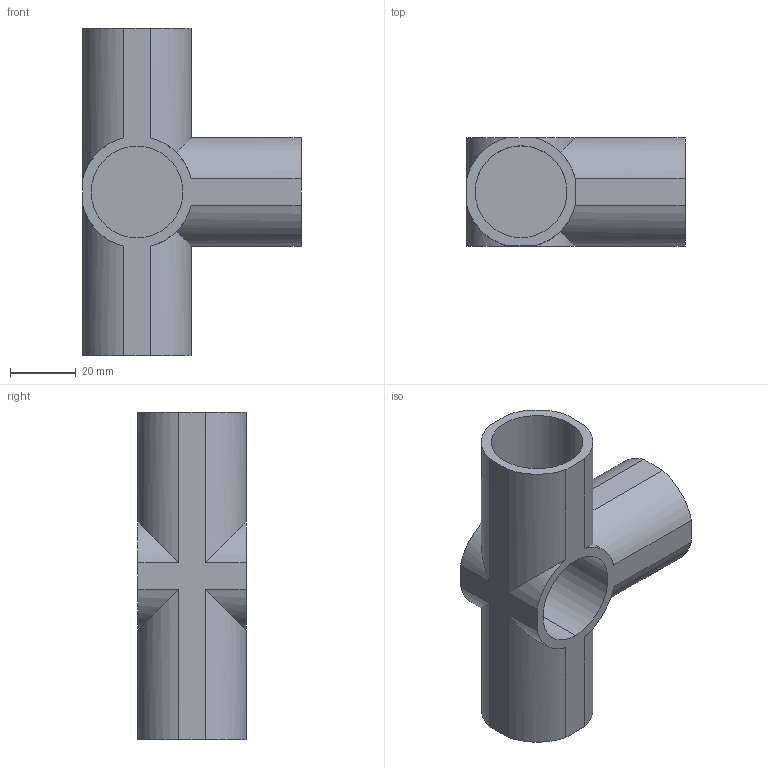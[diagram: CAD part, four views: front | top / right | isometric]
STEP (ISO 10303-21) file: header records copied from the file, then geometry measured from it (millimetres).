
FILE_DESCRIPTION (( 'STEP AP214' ), '1' );
FILE_NAME ('PJ-207A.STEP', '2023-09-12T11:04:20', ( 'catia' ), ( 'HP Inc.' ), 'SwSTEP 2.0', 'SolidWorks 2021', '' );
FILE_SCHEMA (( 'AUTOMOTIVE_DESIGN' ));
Length unit declared in the file: millimetre
Products named in the file (1): PJ-207A
Bounding box: 66.5 x 33 x 100 mm (x, y, z)
Volume: 50110.6 mm3; surface area: 27378.2 mm2
Topology: 1 solids, 1 shells, 42 faces, 104 edges, 68 vertices
Faces by surface type: cylinder 28, plane 14
Entity records: 1286 total; most frequent: CARTESIAN_POINT 263, DIRECTION 210, ORIENTED_EDGE 208, EDGE_CURVE 104, AXIS2_PLACEMENT_3D 79, VERTEX_POINT 68, VECTOR 52, LINE 52
